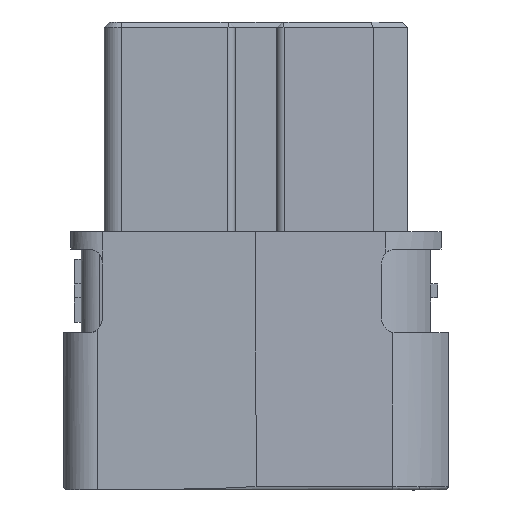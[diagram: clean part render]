
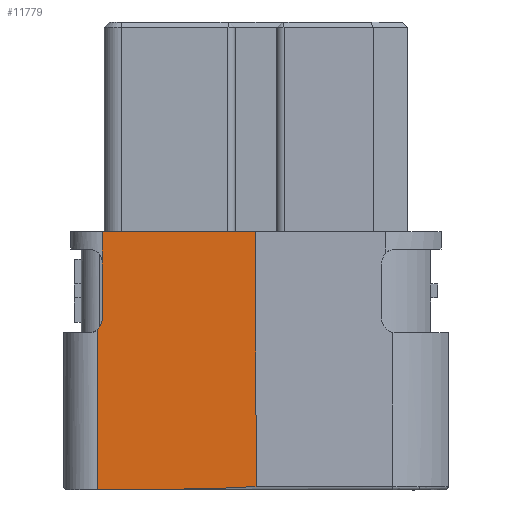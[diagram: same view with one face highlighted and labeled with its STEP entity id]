
A CAD part, front view. The second image highlights one B-rep face of the part: STEP entity #11779.
In plain terms, the highlighted planar face has unit normal (-0.009, -1, 0).
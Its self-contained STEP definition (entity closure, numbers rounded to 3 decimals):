
#525 = ORIENTED_EDGE ( 'NONE', *, *, #7209, .F. ) ;
#815 = PLANE ( 'NONE',  #11221 ) ;
#888 = DIRECTION ( 'NONE',  ( 0., 0., -1. ) ) ;
#948 = VERTEX_POINT ( 'NONE', #10463 ) ;
#1332 = CARTESIAN_POINT ( 'NONE',  ( 0., -2.8, 3.4 ) ) ;
#1573 = EDGE_CURVE ( 'NONE', #10459, #9079, #10949, .T. ) ;
#1740 =( BOUNDED_CURVE ( )  B_SPLINE_CURVE ( 3, ( #4230, #14098, #7600, #13175 ),
 .UNSPECIFIED., .F., .F. ) 
 B_SPLINE_CURVE_WITH_KNOTS ( ( 4, 4 ),
 ( 3.142, 4.505 ),
 .UNSPECIFIED. ) 
 CURVE ( )  GEOMETRIC_REPRESENTATION_ITEM ( )  RATIONAL_B_SPLINE_CURVE ( ( 1., 0.851, 0.851, 1. ) ) 
 REPRESENTATION_ITEM ( '' )  );
#1814 = DIRECTION ( 'NONE',  ( 0., 0., 1. ) ) ;
#1925 = ORIENTED_EDGE ( 'NONE', *, *, #3533, .F. ) ;
#2056 = CARTESIAN_POINT ( 'NONE',  ( -4.4, -2.762, -4. ) ) ;
#2210 = VERTEX_POINT ( 'NONE', #8344 ) ;
#2437 = CARTESIAN_POINT ( 'NONE',  ( -4.408, -2.762, 2.579 ) ) ;
#2840 = DIRECTION ( 'NONE',  ( 0., 0., 1. ) ) ;
#2952 = EDGE_CURVE ( 'NONE', #12067, #9079, #10311, .T. ) ;
#3371 = DIRECTION ( 'NONE',  ( 0., 0., -1. ) ) ;
#3483 = ORIENTED_EDGE ( 'NONE', *, *, #10974, .F. ) ;
#3533 = EDGE_CURVE ( 'NONE', #11535, #5341, #4647, .T. ) ;
#3534 = CARTESIAN_POINT ( 'NONE',  ( -4.4, -2.762, 2.5 ) ) ;
#4038 = VECTOR ( 'NONE', #2840, 1000. ) ;
#4230 = CARTESIAN_POINT ( 'NONE',  ( 0., -2.8, -3.9 ) ) ;
#4647 =( BOUNDED_CURVE ( )  B_SPLINE_CURVE ( 3, ( #3534, #13201, #6766, #7914 ),
 .UNSPECIFIED., .F., .T. ) 
 B_SPLINE_CURVE_WITH_KNOTS ( ( 4, 4 ),
 ( 0., 0.199 ),
 .UNSPECIFIED. ) 
 CURVE ( )  GEOMETRIC_REPRESENTATION_ITEM ( )  RATIONAL_B_SPLINE_CURVE ( ( 1., 0.997, 0.997, 1. ) ) 
 REPRESENTATION_ITEM ( '' )  );
#4868 = EDGE_CURVE ( 'NONE', #2210, #948, #6325, .T. ) ;
#5167 = CARTESIAN_POINT ( 'NONE',  ( 0., -2.8, -4. ) ) ;
#5341 = VERTEX_POINT ( 'NONE', #2437 ) ;
#5351 = CARTESIAN_POINT ( 'NONE',  ( -4.4, -2.762, 0.9 ) ) ;
#5421 = VECTOR ( 'NONE', #1814, 1000. ) ;
#5455 = CARTESIAN_POINT ( 'NONE',  ( 0., -2.8, -4. ) ) ;
#6325 = LINE ( 'NONE', #5455, #8477 ) ;
#6576 = CARTESIAN_POINT ( 'NONE',  ( -4.4, -2.762, 0.776 ) ) ;
#6705 = LINE ( 'NONE', #8917, #7032 ) ;
#6766 = CARTESIAN_POINT ( 'NONE',  ( -4.403, -2.762, 2.553 ) ) ;
#7032 = VECTOR ( 'NONE', #10841, 1000. ) ;
#7209 = EDGE_CURVE ( 'NONE', #948, #12067, #1740, .T. ) ;
#7576 = CARTESIAN_POINT ( 'NONE',  ( -4.454, -2.761, 0.664 ) ) ;
#7600 = CARTESIAN_POINT ( 'NONE',  ( -1.783, -2.784, -3.988 ) ) ;
#7914 = CARTESIAN_POINT ( 'NONE',  ( -4.408, -2.762, 2.579 ) ) ;
#8105 = ORIENTED_EDGE ( 'NONE', *, *, #1573, .T. ) ;
#8136 = ORIENTED_EDGE ( 'NONE', *, *, #2952, .F. ) ;
#8344 = CARTESIAN_POINT ( 'NONE',  ( 0., -2.8, 3.4 ) ) ;
#8359 = LINE ( 'NONE', #2056, #4038 ) ;
#8477 = VECTOR ( 'NONE', #888, 1000. ) ;
#8917 = CARTESIAN_POINT ( 'NONE',  ( -4.408, -2.762, 2.579 ) ) ;
#9079 = VERTEX_POINT ( 'NONE', #11714 ) ;
#9125 = CARTESIAN_POINT ( 'NONE',  ( -4.408, -2.762, 3.4 ) ) ;
#9381 = CARTESIAN_POINT ( 'NONE',  ( -4.552, -2.76, -21.468 ) ) ;
#9815 = ORIENTED_EDGE ( 'NONE', *, *, #10334, .F. ) ;
#10311 = LINE ( 'NONE', #9381, #5421 ) ;
#10334 = EDGE_CURVE ( 'NONE', #13909, #2210, #13475, .T. ) ;
#10377 = CARTESIAN_POINT ( 'NONE',  ( -4.552, -2.76, -3.998 ) ) ;
#10457 = VECTOR ( 'NONE', #13259, 1000. ) ;
#10459 = VERTEX_POINT ( 'NONE', #13616 ) ;
#10463 = CARTESIAN_POINT ( 'NONE',  ( 0., -2.8, -3.9 ) ) ;
#10484 = EDGE_LOOP ( 'NONE', ( #1925, #3483, #8105, #8136, #525, #14079, #9815, #13162 ) ) ;
#10607 = FACE_OUTER_BOUND ( 'NONE', #10484, .T. ) ;
#10841 = DIRECTION ( 'NONE',  ( 0., 0., 1. ) ) ;
#10949 =( BOUNDED_CURVE ( )  B_SPLINE_CURVE ( 3, ( #5351, #6576, #7576, #13151 ),
 .UNSPECIFIED., .F., .F. ) 
 B_SPLINE_CURVE_WITH_KNOTS ( ( 4, 4 ),
 ( 0., 0.901 ),
 .UNSPECIFIED. ) 
 CURVE ( )  GEOMETRIC_REPRESENTATION_ITEM ( )  RATIONAL_B_SPLINE_CURVE ( ( 1., 0.933, 0.933, 1. ) ) 
 REPRESENTATION_ITEM ( '' )  );
#10974 = EDGE_CURVE ( 'NONE', #10459, #11535, #8359, .T. ) ;
#11113 = EDGE_CURVE ( 'NONE', #5341, #13909, #6705, .T. ) ;
#11221 = AXIS2_PLACEMENT_3D ( 'NONE', #5167, #13961, #3371 ) ;
#11535 = VERTEX_POINT ( 'NONE', #13553 ) ;
#11714 = CARTESIAN_POINT ( 'NONE',  ( -4.552, -2.76, 0.586 ) ) ;
#11779 = ADVANCED_FACE ( 'NONE', ( #10607 ), #815, .F. ) ;
#12067 = VERTEX_POINT ( 'NONE', #10377 ) ;
#13151 = CARTESIAN_POINT ( 'NONE',  ( -4.552, -2.76, 0.586 ) ) ;
#13162 = ORIENTED_EDGE ( 'NONE', *, *, #11113, .F. ) ;
#13175 = CARTESIAN_POINT ( 'NONE',  ( -4.552, -2.76, -3.998 ) ) ;
#13201 = CARTESIAN_POINT ( 'NONE',  ( -4.4, -2.762, 2.527 ) ) ;
#13259 = DIRECTION ( 'NONE',  ( 1., -0.009, 0. ) ) ;
#13475 = LINE ( 'NONE', #1332, #10457 ) ;
#13553 = CARTESIAN_POINT ( 'NONE',  ( -4.4, -2.762, 2.5 ) ) ;
#13616 = CARTESIAN_POINT ( 'NONE',  ( -4.4, -2.762, 0.9 ) ) ;
#13909 = VERTEX_POINT ( 'NONE', #9125 ) ;
#13961 = DIRECTION ( 'NONE',  ( 0.009, 1., 0. ) ) ;
#14079 = ORIENTED_EDGE ( 'NONE', *, *, #4868, .F. ) ;
#14098 = CARTESIAN_POINT ( 'NONE',  ( 0., -2.8, -3.949 ) ) ;
